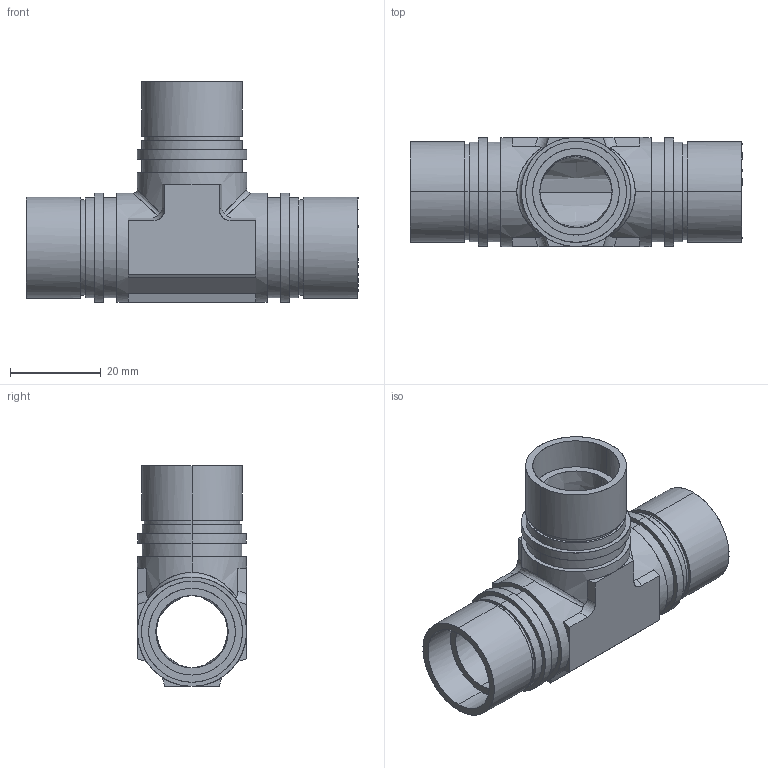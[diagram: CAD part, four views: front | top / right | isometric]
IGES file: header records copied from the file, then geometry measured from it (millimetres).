
Start section: Comment
Global section: file name: 70-19.05UT-P.igs; native system:  By Spatial Corp.; preprocessor: XPlus GENERIC/IGES 3.0; author: Author; organization: Title; date: 20100223.112140; units: inch
Bounding box: 73 x 24 x 48.5 mm (x, y, z)
Surface area: 13615.4 mm2 (no closed solid volume)
Topology: 0 solids, 0 shells, 102 faces, 478 edges, 478 vertices
Faces by surface type: bspline 102
